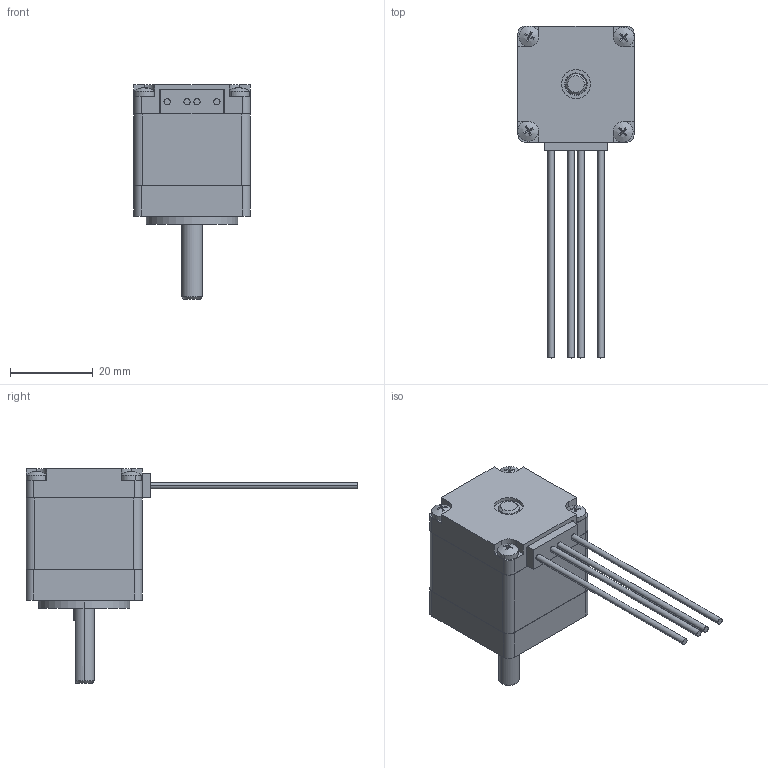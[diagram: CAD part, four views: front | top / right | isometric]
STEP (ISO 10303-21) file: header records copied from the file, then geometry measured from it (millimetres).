
FILE_DESCRIPTION (( 'STEP AP203' ), '1' );
FILE_NAME ('YK28HB32-01A.STEP', '2020-06-15T06:13:59', ( '' ), ( '' ), 'SwSTEP 2.0', 'SolidWorks 2016', '' );
FILE_SCHEMA (( 'CONFIG_CONTROL_DESIGN' ));
Length unit declared in the file: millimetre
Products named in the file (12): 粣創; YK28HB32-01A; ヶ傷裔; 盄縐; 綴粣杶; 蹟隊; 綴傷裔; 粣杶; 粣郋; 棠詩; 蛌赽え; 隅赽
Assembly tree (16 placements, depth 2):
  YK28HB32-01A
    蛌赽え  x2
    棠詩
    粣杶
    綴粣杶
    粣創  x2
    ヶ傷裔
    隅赽
    綴傷裔
    盄縐
    蹟隊  x4
    粣郋
Bounding box: 28 x 80 x 51.6 mm (x, y, z)
Volume: 21308.3 mm3; surface area: 18572.5 mm2
Topology: 16 solids, 16 shells, 1180 faces, 2624 edges, 1497 vertices
Faces by surface type: cone 893, plane 143, cylinder 116, bspline 28
Entity records: 14082 total; most frequent: DIRECTION 2381, CARTESIAN_POINT 2331, ORIENTED_EDGE 2024, EDGE_CURVE 1012, AXIS2_PLACEMENT_3D 944, VERTEX_POINT 606, EDGE_LOOP 498, LINE 493
